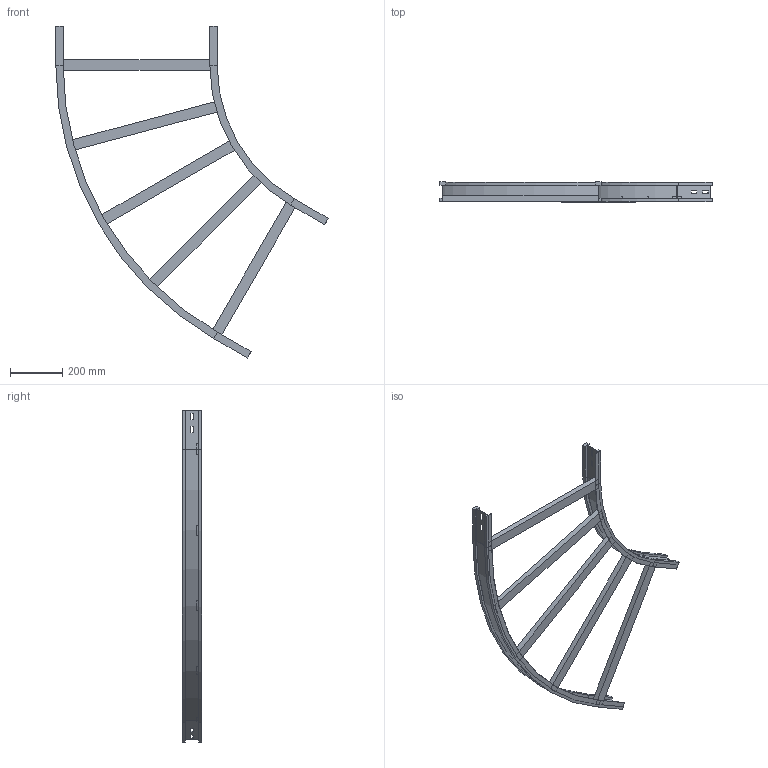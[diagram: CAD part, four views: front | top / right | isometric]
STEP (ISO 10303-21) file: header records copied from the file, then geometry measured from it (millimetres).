
FILE_DESCRIPTION (( 'STEP AP214' ), '1' );
FILE_NAME ('13S6C600.step', '2025-02-21T16:08:30', ( '' ), ( '' ), 'SwSTEP 2.0', 'SolidWorks 2023', '' );
FILE_SCHEMA (( 'AUTOMOTIVE_DESIGN' ));
Length unit declared in the file: millimetre
Products named in the file (4): 13S6C600; LONGH.INTERNO 60°_H75_R600; TRAVERSINO_600; LONGH.ESTERNO 60°_H75_R600+600
Assembly tree (7 placements, depth 2):
  13S6C600
    LONGH.INTERNO 60°_H75_R600
    LONGH.ESTERNO 60°_H75_R600+600
    TRAVERSINO_600  x5
Bounding box: 1043.4 x 75 x 1272.02 mm (x, y, z)
Volume: 3639611.9 mm3; surface area: 982256 mm2
Topology: 7 solids, 7 shells, 138 faces, 324 edges, 200 vertices
Faces by surface type: plane 126, cylinder 12
Entity records: 3405 total; most frequent: CARTESIAN_POINT 568, ORIENTED_EDGE 552, DIRECTION 548, EDGE_CURVE 276, LINE 252, VECTOR 252, VERTEX_POINT 168, AXIS2_PLACEMENT_3D 148
